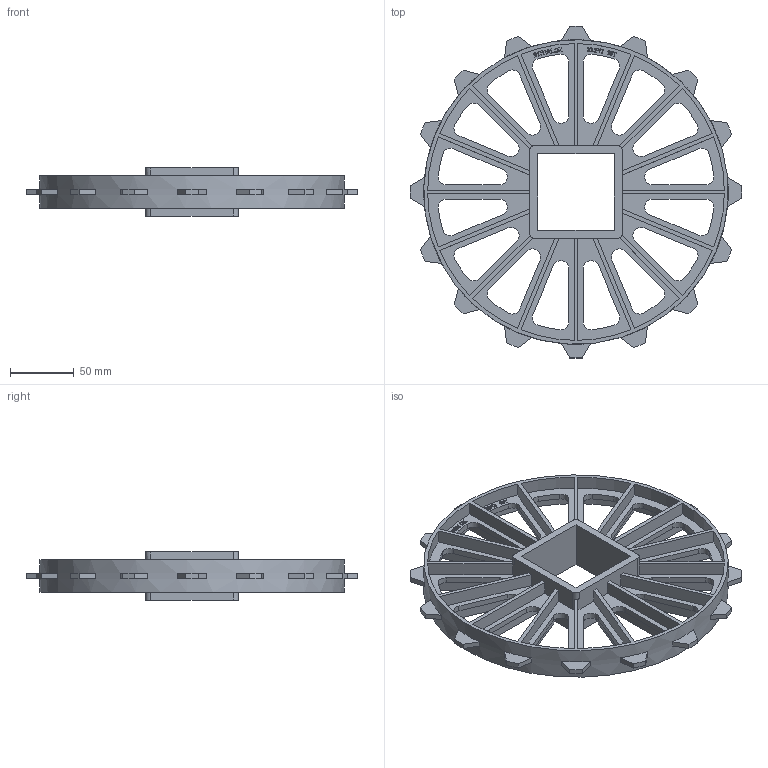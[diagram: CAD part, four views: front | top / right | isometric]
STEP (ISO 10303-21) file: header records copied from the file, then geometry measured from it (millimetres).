
FILE_DESCRIPTION((''),'2;1');
FILE_NAME('S400_SPROCKET_101X25_60_SQ','2008-12-12T',('jmumphre'),(''),'PRO/ENGINEER BY PARAMETRIC TECHNOLOGY CORPORATION, 2008150','PRO/ENGINEER BY PARAMETRIC TECHNOLOGY CORPORATION, 2008150','');
FILE_SCHEMA(('CONFIG_CONTROL_DESIGN'));
Length unit declared in the file: inch
Products named in the file (1): S400_SPROCKET_101X25_60_SQ
Bounding box: 259.71 x 259.71 x 37.85 mm (x, y, z)
Volume: 296738.4 mm3; surface area: 164625.8 mm2
Topology: 1 solids, 1 shells, 662 faces, 1854 edges, 1236 vertices
Faces by surface type: plane 556, cylinder 106
Entity records: 21198 total; most frequent: CARTESIAN_POINT 3752, ORIENTED_EDGE 3708, DIRECTION 3430, EDGE_CURVE 1854, VECTOR 1602, LINE 1602, VERTEX_POINT 1236, AXIS2_PLACEMENT_3D 914
